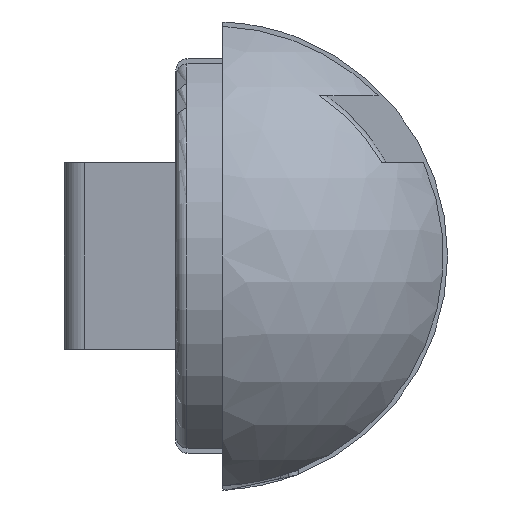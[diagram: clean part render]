
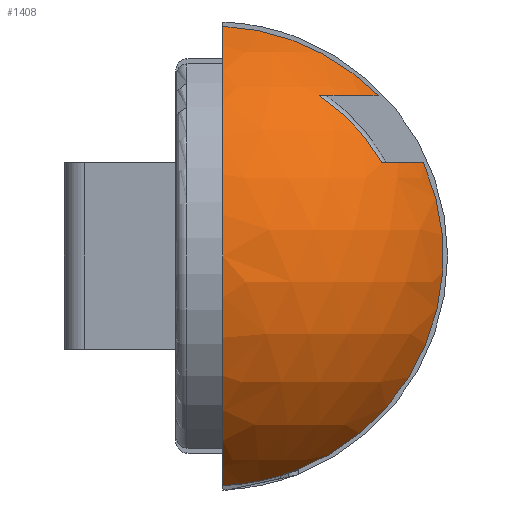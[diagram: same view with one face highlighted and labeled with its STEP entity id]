
A CAD part, front view. The second image highlights one B-rep face of the part: STEP entity #1408.
In plain terms, the highlighted spherical face has radius 11.15 mm.
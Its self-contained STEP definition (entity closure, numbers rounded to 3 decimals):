
#54=SPHERICAL_SURFACE('',#1544,11.15);
#433=FACE_OUTER_BOUND('',#524,.T.);
#524=EDGE_LOOP('',(#1061,#1062,#1063,#1064,#1065,#1066));
#602=CIRCLE('',#1512,8.578);
#604=CIRCLE('',#1516,8.556);
#606=CIRCLE('',#1519,10.349);
#610=CIRCLE('',#1525,10.248);
#613=CIRCLE('',#1529,10.248);
#615=CIRCLE('',#1532,11.142);
#654=VERTEX_POINT('',#2077);
#657=VERTEX_POINT('',#2096);
#663=VERTEX_POINT('',#2128);
#668=VERTEX_POINT('',#2140);
#672=VERTEX_POINT('',#2152);
#677=VERTEX_POINT('',#2165);
#791=EDGE_CURVE('',#657,#654,#602,.T.);
#798=EDGE_CURVE('',#657,#663,#604,.T.);
#804=EDGE_CURVE('',#668,#654,#606,.T.);
#810=EDGE_CURVE('',#672,#668,#610,.T.);
#818=EDGE_CURVE('',#663,#677,#613,.T.);
#820=EDGE_CURVE('',#672,#677,#615,.T.);
#1061=ORIENTED_EDGE('',*,*,#798,.T.);
#1062=ORIENTED_EDGE('',*,*,#818,.T.);
#1063=ORIENTED_EDGE('',*,*,#820,.F.);
#1064=ORIENTED_EDGE('',*,*,#810,.T.);
#1065=ORIENTED_EDGE('',*,*,#804,.T.);
#1066=ORIENTED_EDGE('',*,*,#791,.F.);
#1408=ADVANCED_FACE('',(#433),#54,.T.);
#1512=AXIS2_PLACEMENT_3D('',#2114,#1655,#1656);
#1516=AXIS2_PLACEMENT_3D('',#2129,#1668,#1669);
#1519=AXIS2_PLACEMENT_3D('',#2141,#1678,#1679);
#1525=AXIS2_PLACEMENT_3D('',#2153,#1692,#1693);
#1529=AXIS2_PLACEMENT_3D('',#2167,#1705,#1706);
#1532=AXIS2_PLACEMENT_3D('',#2170,#1711,#1712);
#1544=AXIS2_PLACEMENT_3D('',#2190,#1735,#1736);
#1655=DIRECTION('center_axis',(0.,1.,0.));
#1656=DIRECTION('ref_axis',(0.793,0.,0.609));
#1668=DIRECTION('center_axis',(0.,0.,1.));
#1669=DIRECTION('ref_axis',(0.,1.,0.));
#1678=DIRECTION('center_axis',(0.,0.,-1.));
#1679=DIRECTION('ref_axis',(0.,-1.,0.));
#1692=DIRECTION('center_axis',(0.,-1.,0.));
#1693=DIRECTION('ref_axis',(0.,0.,1.));
#1705=DIRECTION('center_axis',(0.,-1.,0.));
#1706=DIRECTION('ref_axis',(0.,0.,1.));
#1711=DIRECTION('center_axis',(-1.,0.,0.));
#1712=DIRECTION('ref_axis',(0.,0.,-1.));
#1735=DIRECTION('center_axis',(0.,0.,1.));
#1736=DIRECTION('ref_axis',(1.,0.,0.));
#2077=CARTESIAN_POINT('',(-26.147,14.407,-8.752));
#2096=CARTESIAN_POINT('',(-28.915,14.407,-5.752));
#2114=CARTESIAN_POINT('Origin',(-33.654,14.407,-12.902));
#2128=CARTESIAN_POINT('',(-26.313,17.137,-5.752));
#2129=CARTESIAN_POINT('Origin',(-33.654,21.53,-5.752));
#2140=CARTESIAN_POINT('',(-24.285,17.137,-8.752));
#2141=CARTESIAN_POINT('Origin',(-33.654,21.53,-8.752));
#2152=CARTESIAN_POINT('',(-33.235,17.137,-23.142));
#2153=CARTESIAN_POINT('Origin',(-33.654,17.137,-12.902));
#2165=CARTESIAN_POINT('',(-33.235,17.137,-2.663));
#2167=CARTESIAN_POINT('Origin',(-33.654,17.137,-12.902));
#2170=CARTESIAN_POINT('Origin',(-33.235,21.53,-12.902));
#2190=CARTESIAN_POINT('Origin',(-33.654,21.53,-12.902));
